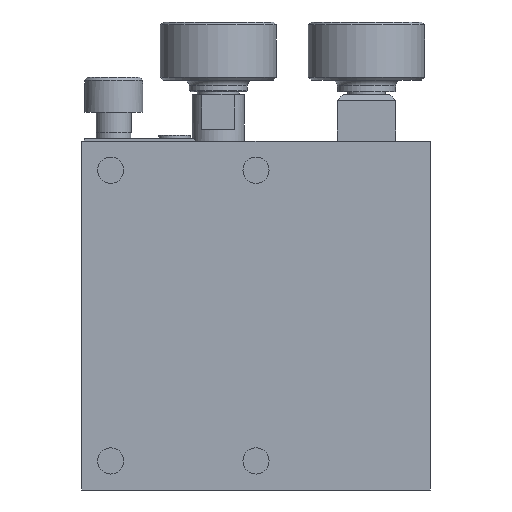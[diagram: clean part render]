
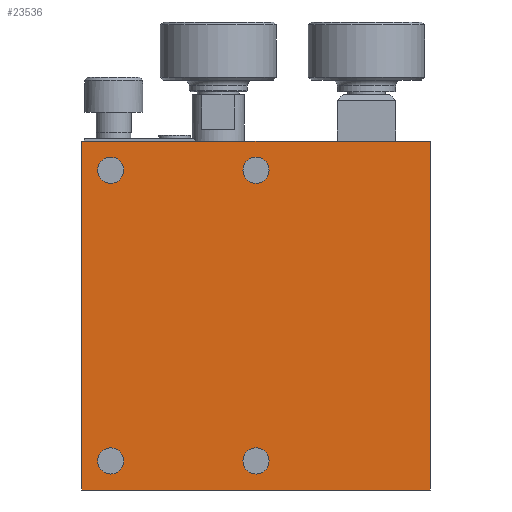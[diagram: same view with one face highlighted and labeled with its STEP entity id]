
A CAD part, front view. The second image highlights one B-rep face of the part: STEP entity #23536.
In plain terms, the highlighted planar face has unit normal (0, -1, 0).
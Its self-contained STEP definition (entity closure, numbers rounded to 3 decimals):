
#2989 = LINE ( 'NONE', #3015, #3014 ) ;
#2990 = CARTESIAN_POINT ( 'NONE',  ( 0., 0., 25. ) ) ;
#2994 = DIRECTION ( 'NONE',  ( -1., 0., 0. ) ) ;
#2995 = VECTOR ( 'NONE', #2994, 1000. ) ;
#2996 = CARTESIAN_POINT ( 'NONE',  ( 30., 0., -30. ) ) ;
#2997 = LINE ( 'NONE', #2996, #2995 ) ;
#2998 = DIRECTION ( 'NONE',  ( -1., 0., 0. ) ) ;
#2999 = VECTOR ( 'NONE', #2998, 1000. ) ;
#3000 = CARTESIAN_POINT ( 'NONE',  ( 30., 0., 30. ) ) ;
#3002 = CIRCLE ( 'NONE', #3007, 2.25 ) ;
#3004 = AXIS2_PLACEMENT_3D ( 'NONE', #3020, #3019, #3018 ) ;
#3005 = CIRCLE ( 'NONE', #3004, 2.25 ) ;
#3007 = AXIS2_PLACEMENT_3D ( 'NONE', #2990, #3010, #3011 ) ;
#3010 = DIRECTION ( 'NONE',  ( 0., 1., 0. ) ) ;
#3011 = DIRECTION ( 'NONE',  ( 0., 0., 1. ) ) ;
#3012 = CARTESIAN_POINT ( 'NONE',  ( 30., 0., 30. ) ) ;
#3013 = DIRECTION ( 'NONE',  ( 0., 0., -1. ) ) ;
#3014 = VECTOR ( 'NONE', #3013, 1000. ) ;
#3015 = CARTESIAN_POINT ( 'NONE',  ( 30., 0., 30. ) ) ;
#3018 = DIRECTION ( 'NONE',  ( 0., 0., 1. ) ) ;
#3019 = DIRECTION ( 'NONE',  ( 0., 1., 0. ) ) ;
#3020 = CARTESIAN_POINT ( 'NONE',  ( -25., 0., -25. ) ) ;
#3023 = LINE ( 'NONE', #3000, #2999 ) ;
#3152 = CARTESIAN_POINT ( 'NONE',  ( 0., 0., -25. ) ) ;
#3199 = CIRCLE ( 'NONE', #3234, 2.25 ) ;
#3221 = DIRECTION ( 'NONE',  ( 0., 0., 1. ) ) ;
#3222 = DIRECTION ( 'NONE',  ( 0., 1., 0. ) ) ;
#3223 = AXIS2_PLACEMENT_3D ( 'NONE', #3246, #3222, #3221 ) ;
#3224 = CIRCLE ( 'NONE', #3223, 2.25 ) ;
#3225 = DIRECTION ( 'NONE',  ( 0., 0., 1. ) ) ;
#3226 = DIRECTION ( 'NONE',  ( 0., 1., 0. ) ) ;
#3234 = AXIS2_PLACEMENT_3D ( 'NONE', #3152, #3226, #3225 ) ;
#3246 = CARTESIAN_POINT ( 'NONE',  ( -25., 0., 25. ) ) ;
#6562 = DIRECTION ( 'NONE',  ( 0., 0., 1. ) ) ;
#6563 = DIRECTION ( 'NONE',  ( 0., 1., 0. ) ) ;
#6564 = CARTESIAN_POINT ( 'NONE',  ( -25., 0., -25. ) ) ;
#6565 = AXIS2_PLACEMENT_3D ( 'NONE', #6564, #6563, #6562 ) ;
#6566 = CIRCLE ( 'NONE', #6565, 2.25 ) ;
#6596 = CARTESIAN_POINT ( 'NONE',  ( -25., 0., -22.75 ) ) ;
#6692 = CARTESIAN_POINT ( 'NONE',  ( -25., 0., -27.25 ) ) ;
#6753 = CARTESIAN_POINT ( 'NONE',  ( 0., 0., -22.75 ) ) ;
#13357 = CARTESIAN_POINT ( 'NONE',  ( -30., 0., 30. ) ) ;
#13371 = CARTESIAN_POINT ( 'NONE',  ( -30., 0., -30. ) ) ;
#17325 = FACE_OUTER_BOUND ( 'NONE', #23506, .T. ) ;
#17327 = FACE_BOUND ( 'NONE', #23350, .T. ) ;
#17331 = FACE_BOUND ( 'NONE', #23542, .T. ) ;
#17410 = DIRECTION ( 'NONE',  ( 0., 0., 1. ) ) ;
#17411 = DIRECTION ( 'NONE',  ( 0., 1., 0. ) ) ;
#17413 = CARTESIAN_POINT ( 'NONE',  ( 30., 0., 30. ) ) ;
#17415 = AXIS2_PLACEMENT_3D ( 'NONE', #17413, #17411, #17410 ) ;
#17416 = PLANE ( 'NONE',  #17415 ) ;
#17419 = FACE_BOUND ( 'NONE', #23483, .T. ) ;
#17420 = FACE_BOUND ( 'NONE', #23559, .T. ) ;
#17470 = CARTESIAN_POINT ( 'NONE',  ( 30., 0., -30. ) ) ;
#19277 = DIRECTION ( 'NONE',  ( 0., 0., 1. ) ) ;
#19278 = AXIS2_PLACEMENT_3D ( 'NONE', #19353, #19355, #19277 ) ;
#19279 = CIRCLE ( 'NONE', #19278, 2.25 ) ;
#19353 = CARTESIAN_POINT ( 'NONE',  ( 0., 0., -25. ) ) ;
#19355 = DIRECTION ( 'NONE',  ( 0., 1., 0. ) ) ;
#19434 = CARTESIAN_POINT ( 'NONE',  ( -25., 0., 27.25 ) ) ;
#19445 = CARTESIAN_POINT ( 'NONE',  ( -25., 0., 22.75 ) ) ;
#19730 = CARTESIAN_POINT ( 'NONE',  ( 0., 0., 27.25 ) ) ;
#20621 = CARTESIAN_POINT ( 'NONE',  ( 0., 0., 22.75 ) ) ;
#20692 = CARTESIAN_POINT ( 'NONE',  ( 0., 0., -27.25 ) ) ;
#20732 = AXIS2_PLACEMENT_3D ( 'NONE', #20761, #20760, #20758 ) ;
#20733 = CIRCLE ( 'NONE', #20732, 2.25 ) ;
#20758 = DIRECTION ( 'NONE',  ( 0., 0., 1. ) ) ;
#20760 = DIRECTION ( 'NONE',  ( 0., 1., 0. ) ) ;
#20761 = CARTESIAN_POINT ( 'NONE',  ( 0., 0., 25. ) ) ;
#20942 = DIRECTION ( 'NONE',  ( 0., 0., 1. ) ) ;
#20944 = DIRECTION ( 'NONE',  ( 0., 1., 0. ) ) ;
#20945 = CARTESIAN_POINT ( 'NONE',  ( -25., 0., 25. ) ) ;
#20946 = AXIS2_PLACEMENT_3D ( 'NONE', #20945, #20944, #20942 ) ;
#20948 = CIRCLE ( 'NONE', #20946, 2.25 ) ;
#21989 = VERTEX_POINT ( 'NONE', #6596 ) ;
#22009 = EDGE_CURVE ( 'NONE', #22020, #21989, #6566, .T. ) ;
#22020 = VERTEX_POINT ( 'NONE', #6692 ) ;
#22046 = VERTEX_POINT ( 'NONE', #6753 ) ;
#22118 = EDGE_CURVE ( 'NONE', #22369, #22379, #20948, .T. ) ;
#22167 = EDGE_CURVE ( 'NONE', #22214, #22281, #20733, .T. ) ;
#22203 = VERTEX_POINT ( 'NONE', #20692 ) ;
#22214 = VERTEX_POINT ( 'NONE', #20621 ) ;
#22243 = EDGE_CURVE ( 'NONE', #22203, #22046, #19279, .T. ) ;
#22281 = VERTEX_POINT ( 'NONE', #19730 ) ;
#22369 = VERTEX_POINT ( 'NONE', #19445 ) ;
#22379 = VERTEX_POINT ( 'NONE', #19434 ) ;
#22724 = EDGE_CURVE ( 'NONE', #22793, #22768, #23188, .T. ) ;
#22768 = VERTEX_POINT ( 'NONE', #13371 ) ;
#22793 = VERTEX_POINT ( 'NONE', #13357 ) ;
#23184 = DIRECTION ( 'NONE',  ( 0., 0., -1. ) ) ;
#23185 = VECTOR ( 'NONE', #23184, 1000. ) ;
#23186 = CARTESIAN_POINT ( 'NONE',  ( -30., 0., 30. ) ) ;
#23188 = LINE ( 'NONE', #23186, #23185 ) ;
#23349 = ORIENTED_EDGE ( 'NONE', *, *, #22243, .T. ) ;
#23350 = EDGE_LOOP ( 'NONE', ( #23514, #23563 ) ) ;
#23449 = EDGE_CURVE ( 'NONE', #22281, #22214, #3002, .T. ) ;
#23455 = EDGE_CURVE ( 'NONE', #22046, #22203, #3199, .T. ) ;
#23457 = ORIENTED_EDGE ( 'NONE', *, *, #23479, .T. ) ;
#23458 = ORIENTED_EDGE ( 'NONE', *, *, #23459, .T. ) ;
#23459 = EDGE_CURVE ( 'NONE', #22379, #22369, #3224, .T. ) ;
#23479 = EDGE_CURVE ( 'NONE', #21989, #22020, #3005, .T. ) ;
#23483 = EDGE_LOOP ( 'NONE', ( #23457, #23550 ) ) ;
#23485 = ORIENTED_EDGE ( 'NONE', *, *, #23455, .T. ) ;
#23486 = EDGE_CURVE ( 'NONE', #23487, #23546, #2989, .T. ) ;
#23487 = VERTEX_POINT ( 'NONE', #3012 ) ;
#23491 = ORIENTED_EDGE ( 'NONE', *, *, #23492, .T. ) ;
#23492 = EDGE_CURVE ( 'NONE', #23487, #22793, #3023, .T. ) ;
#23493 = EDGE_CURVE ( 'NONE', #23546, #22768, #2997, .T. ) ;
#23504 = ORIENTED_EDGE ( 'NONE', *, *, #22118, .T. ) ;
#23506 = EDGE_LOOP ( 'NONE', ( #23530, #23537, #23547, #23491 ) ) ;
#23514 = ORIENTED_EDGE ( 'NONE', *, *, #23449, .T. ) ;
#23530 = ORIENTED_EDGE ( 'NONE', *, *, #22724, .T. ) ;
#23536 = ADVANCED_FACE ( 'NONE', ( #17331, #17327, #17325, #17420, #17419 ), #17416, .F. ) ;
#23537 = ORIENTED_EDGE ( 'NONE', *, *, #23493, .F. ) ;
#23542 = EDGE_LOOP ( 'NONE', ( #23485, #23349 ) ) ;
#23546 = VERTEX_POINT ( 'NONE', #17470 ) ;
#23547 = ORIENTED_EDGE ( 'NONE', *, *, #23486, .F. ) ;
#23550 = ORIENTED_EDGE ( 'NONE', *, *, #22009, .T. ) ;
#23559 = EDGE_LOOP ( 'NONE', ( #23458, #23504 ) ) ;
#23563 = ORIENTED_EDGE ( 'NONE', *, *, #22167, .T. ) ;
